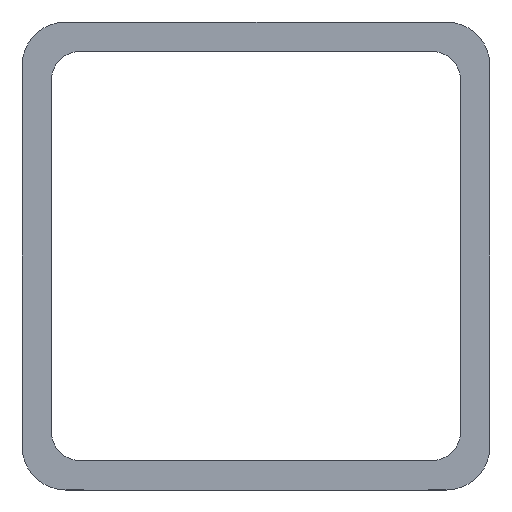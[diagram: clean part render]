
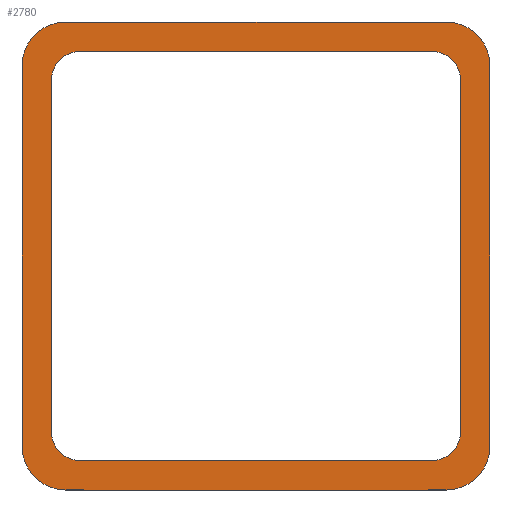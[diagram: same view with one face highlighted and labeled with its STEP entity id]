
A CAD part, left-side view. The second image highlights one B-rep face of the part: STEP entity #2780.
In plain terms, the highlighted planar face has unit normal (-1, 0, 0).
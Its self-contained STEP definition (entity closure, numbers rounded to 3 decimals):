
#1302=CIRCLE('',#2670,7.5);
#1304=CIRCLE('',#2674,7.5);
#1310=CIRCLE('',#2682,7.5);
#1312=CIRCLE('',#2686,7.5);
#1314=CIRCLE('',#2689,5.);
#1315=CIRCLE('',#2690,5.);
#1316=CIRCLE('',#2691,5.);
#1317=CIRCLE('',#2692,5.);
#1398=ORIENTED_EDGE('',*,*,#1940,.T.);
#1399=ORIENTED_EDGE('',*,*,#1891,.T.);
#1400=ORIENTED_EDGE('',*,*,#1899,.T.);
#1401=ORIENTED_EDGE('',*,*,#1902,.T.);
#1402=ORIENTED_EDGE('',*,*,#1913,.T.);
#1403=ORIENTED_EDGE('',*,*,#1916,.T.);
#1404=ORIENTED_EDGE('',*,*,#1927,.T.);
#1405=ORIENTED_EDGE('',*,*,#1930,.T.);
#1406=ORIENTED_EDGE('',*,*,#1942,.T.);
#1407=ORIENTED_EDGE('',*,*,#1943,.T.);
#1408=ORIENTED_EDGE('',*,*,#1944,.T.);
#1409=ORIENTED_EDGE('',*,*,#1945,.T.);
#1410=ORIENTED_EDGE('',*,*,#1946,.T.);
#1411=ORIENTED_EDGE('',*,*,#1947,.T.);
#1412=ORIENTED_EDGE('',*,*,#1948,.T.);
#1413=ORIENTED_EDGE('',*,*,#1949,.T.);
#1595=VECTOR('',#2165,1.);
#1604=VECTOR('',#2182,1.);
#1616=VECTOR('',#2202,1.);
#1624=VECTOR('',#2226,1.);
#1634=VECTOR('',#2244,1.);
#1635=VECTOR('',#2247,1.);
#1636=VECTOR('',#2250,1.);
#1637=VECTOR('',#2253,1.);
#1699=LINE('',#2411,#1595);
#1708=LINE('',#2433,#1604);
#1720=LINE('',#2461,#1616);
#1728=LINE('',#2489,#1624);
#1738=LINE('',#2513,#1634);
#1739=LINE('',#2517,#1635);
#1740=LINE('',#2521,#1636);
#1741=LINE('',#2525,#1637);
#1803=VERTEX_POINT('',#2408);
#1804=VERTEX_POINT('',#2410);
#1811=VERTEX_POINT('',#2425);
#1813=VERTEX_POINT('',#2431);
#1823=VERTEX_POINT('',#2453);
#1825=VERTEX_POINT('',#2459);
#1835=VERTEX_POINT('',#2481);
#1837=VERTEX_POINT('',#2487);
#1846=VERTEX_POINT('',#2511);
#1847=VERTEX_POINT('',#2512);
#1848=VERTEX_POINT('',#2514);
#1849=VERTEX_POINT('',#2516);
#1850=VERTEX_POINT('',#2518);
#1851=VERTEX_POINT('',#2520);
#1852=VERTEX_POINT('',#2522);
#1853=VERTEX_POINT('',#2524);
#1891=EDGE_CURVE('',#1804,#1803,#1699,.T.);
#1899=EDGE_CURVE('',#1803,#1811,#1302,.T.);
#1902=EDGE_CURVE('',#1811,#1813,#1708,.T.);
#1913=EDGE_CURVE('',#1813,#1823,#1304,.T.);
#1916=EDGE_CURVE('',#1823,#1825,#1720,.T.);
#1927=EDGE_CURVE('',#1825,#1835,#1310,.T.);
#1930=EDGE_CURVE('',#1835,#1837,#1728,.T.);
#1940=EDGE_CURVE('',#1837,#1804,#1312,.T.);
#1942=EDGE_CURVE('',#1846,#1847,#1738,.T.);
#1943=EDGE_CURVE('',#1847,#1848,#1314,.T.);
#1944=EDGE_CURVE('',#1848,#1849,#1739,.T.);
#1945=EDGE_CURVE('',#1849,#1850,#1315,.T.);
#1946=EDGE_CURVE('',#1850,#1851,#1740,.T.);
#1947=EDGE_CURVE('',#1851,#1852,#1316,.T.);
#1948=EDGE_CURVE('',#1852,#1853,#1741,.T.);
#1949=EDGE_CURVE('',#1853,#1846,#1317,.T.);
#2036=EDGE_LOOP('',(#1398,#1399,#1400,#1401,#1402,#1403,#1404,#1405));
#2037=EDGE_LOOP('',(#1406,#1407,#1408,#1409,#1410,#1411,#1412,#1413));
#2108=FACE_BOUND('',#2036,.T.);
#2109=FACE_BOUND('',#2037,.T.);
#2165=DIRECTION('',(0.,65.,0.));
#2175=DIRECTION('',(-1.,0.,0.));
#2176=DIRECTION('',(0.,-7.5,0.));
#2182=DIRECTION('',(0.,0.,-65.));
#2195=DIRECTION('',(-1.,0.,0.));
#2196=DIRECTION('',(0.,-7.5,0.));
#2202=DIRECTION('',(0.,-65.,0.));
#2219=DIRECTION('',(-1.,0.,0.));
#2220=DIRECTION('',(0.,-7.5,0.));
#2226=DIRECTION('',(0.,0.,65.));
#2238=DIRECTION('',(-1.,0.,0.));
#2239=DIRECTION('',(0.,-7.5,0.));
#2242=DIRECTION('',(-1.,0.,0.));
#2243=DIRECTION('',(0.,1.,0.));
#2244=DIRECTION('',(0.,-60.,0.));
#2245=DIRECTION('',(1.,0.,0.));
#2246=DIRECTION('',(0.,-5.,0.));
#2247=DIRECTION('',(0.,0.,-60.));
#2248=DIRECTION('',(1.,0.,0.));
#2249=DIRECTION('',(0.,-5.,0.));
#2250=DIRECTION('',(0.,60.,0.));
#2251=DIRECTION('',(1.,0.,0.));
#2252=DIRECTION('',(0.,-5.,0.));
#2253=DIRECTION('',(0.,0.,60.));
#2254=DIRECTION('',(1.,0.,0.));
#2255=DIRECTION('',(0.,-5.,0.));
#2408=CARTESIAN_POINT('',(42.125,32.5,40.));
#2410=CARTESIAN_POINT('',(42.125,-32.5,40.));
#2411=CARTESIAN_POINT('',(42.125,-32.5,40.));
#2425=CARTESIAN_POINT('',(42.125,40.,32.5));
#2427=CARTESIAN_POINT('',(42.125,32.5,32.5));
#2431=CARTESIAN_POINT('',(42.125,40.,-32.5));
#2433=CARTESIAN_POINT('',(42.125,40.,32.5));
#2453=CARTESIAN_POINT('',(42.125,32.5,-40.));
#2455=CARTESIAN_POINT('',(42.125,32.5,-32.5));
#2459=CARTESIAN_POINT('',(42.125,-32.5,-40.));
#2461=CARTESIAN_POINT('',(42.125,32.5,-40.));
#2481=CARTESIAN_POINT('',(42.125,-40.,-32.5));
#2483=CARTESIAN_POINT('',(42.125,-32.5,-32.5));
#2487=CARTESIAN_POINT('',(42.125,-40.,32.5));
#2489=CARTESIAN_POINT('',(42.125,-40.,-32.5));
#2508=CARTESIAN_POINT('',(42.125,-32.5,32.5));
#2510=CARTESIAN_POINT('',(42.125,-40.,32.5));
#2511=CARTESIAN_POINT('',(42.125,30.,35.));
#2512=CARTESIAN_POINT('',(42.125,-30.,35.));
#2513=CARTESIAN_POINT('',(42.125,30.,35.));
#2514=CARTESIAN_POINT('',(42.125,-35.,30.));
#2515=CARTESIAN_POINT('',(42.125,-30.,30.));
#2516=CARTESIAN_POINT('',(42.125,-35.,-30.));
#2517=CARTESIAN_POINT('',(42.125,-35.,30.));
#2518=CARTESIAN_POINT('',(42.125,-30.,-35.));
#2519=CARTESIAN_POINT('',(42.125,-30.,-30.));
#2520=CARTESIAN_POINT('',(42.125,30.,-35.));
#2521=CARTESIAN_POINT('',(42.125,-30.,-35.));
#2522=CARTESIAN_POINT('',(42.125,35.,-30.));
#2523=CARTESIAN_POINT('',(42.125,30.,-30.));
#2524=CARTESIAN_POINT('',(42.125,35.,30.));
#2525=CARTESIAN_POINT('',(42.125,35.,-30.));
#2526=CARTESIAN_POINT('',(42.125,30.,30.));
#2670=AXIS2_PLACEMENT_3D('',#2427,#2175,#2176);
#2674=AXIS2_PLACEMENT_3D('',#2455,#2195,#2196);
#2682=AXIS2_PLACEMENT_3D('',#2483,#2219,#2220);
#2686=AXIS2_PLACEMENT_3D('',#2508,#2238,#2239);
#2688=AXIS2_PLACEMENT_3D('',#2510,#2242,#2243);
#2689=AXIS2_PLACEMENT_3D('',#2515,#2245,#2246);
#2690=AXIS2_PLACEMENT_3D('',#2519,#2248,#2249);
#2691=AXIS2_PLACEMENT_3D('',#2523,#2251,#2252);
#2692=AXIS2_PLACEMENT_3D('',#2526,#2254,#2255);
#2742=PLANE('',#2688);
#2780=ADVANCED_FACE('',(#2108,#2109),#2742,.T.);
